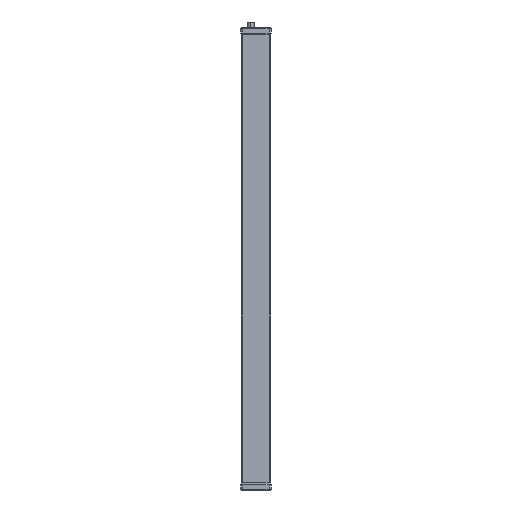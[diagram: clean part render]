
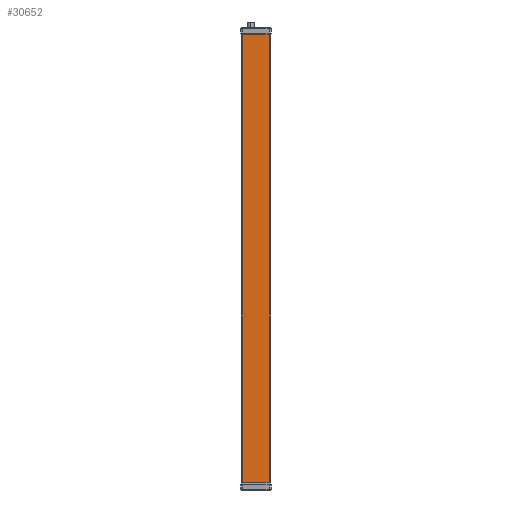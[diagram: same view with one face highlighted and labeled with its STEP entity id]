
A CAD part, left-side view. The second image highlights one B-rep face of the part: STEP entity #30652.
In plain terms, the highlighted planar face has unit normal (-1, 0, 0).
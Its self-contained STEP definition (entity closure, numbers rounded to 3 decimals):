
#17262 = DIRECTION ( 'NONE',  ( 0., 0., -1. ) ) ;
#17263 = VECTOR ( 'NONE', #17262, 1000. ) ;
#17264 = CARTESIAN_POINT ( 'NONE',  ( -21.191, 23.438, 579. ) ) ;
#17265 = LINE ( 'NONE', #17264, #17263 ) ;
#17271 = CARTESIAN_POINT ( 'NONE',  ( -21.191, 23.438, 579. ) ) ;
#17272 = DIRECTION ( 'NONE',  ( 0., 0., 1. ) ) ;
#17273 = VECTOR ( 'NONE', #17272, 1000. ) ;
#17274 = CARTESIAN_POINT ( 'NONE',  ( -21.191, -17.562, 579. ) ) ;
#17275 = LINE ( 'NONE', #17274, #17273 ) ;
#17276 = DIRECTION ( 'NONE',  ( 0., 1., 0. ) ) ;
#17277 = VECTOR ( 'NONE', #17276, 1000. ) ;
#17278 = CARTESIAN_POINT ( 'NONE',  ( -21.191, -50.274, 579. ) ) ;
#17279 = LINE ( 'NONE', #17278, #17277 ) ;
#17300 = CARTESIAN_POINT ( 'NONE',  ( -21.191, -17.562, 579. ) ) ;
#17315 = FACE_OUTER_BOUND ( 'NONE', #30620, .T. ) ;
#17321 = CARTESIAN_POINT ( 'NONE',  ( -21.191, 23.438, -120. ) ) ;
#17326 = CARTESIAN_POINT ( 'NONE',  ( -21.191, -17.562, -120. ) ) ;
#17327 = DIRECTION ( 'NONE',  ( 0., 1., 0. ) ) ;
#17328 = VECTOR ( 'NONE', #17327, 1000. ) ;
#17329 = CARTESIAN_POINT ( 'NONE',  ( -21.191, -50.274, -120. ) ) ;
#17330 = LINE ( 'NONE', #17329, #17328 ) ;
#17348 = DIRECTION ( 'NONE',  ( 0., -1., 0. ) ) ;
#17349 = DIRECTION ( 'NONE',  ( -1., 0., 0. ) ) ;
#17350 = CARTESIAN_POINT ( 'NONE',  ( -21.191, -50.274, 579. ) ) ;
#17351 = AXIS2_PLACEMENT_3D ( 'NONE', #17350, #17349, #17348 ) ;
#17352 = PLANE ( 'NONE',  #17351 ) ;
#30620 = EDGE_LOOP ( 'NONE', ( #30653, #30638, #30623, #30633 ) ) ;
#30623 = ORIENTED_EDGE ( 'NONE', *, *, #30624, .T. ) ;
#30624 = EDGE_CURVE ( 'NONE', #30639, #30626, #17279, .T. ) ;
#30625 = EDGE_CURVE ( 'NONE', #30647, #30639, #17275, .T. ) ;
#30626 = VERTEX_POINT ( 'NONE', #17271 ) ;
#30629 = EDGE_CURVE ( 'NONE', #30626, #30650, #17265, .T. ) ;
#30633 = ORIENTED_EDGE ( 'NONE', *, *, #30629, .T. ) ;
#30638 = ORIENTED_EDGE ( 'NONE', *, *, #30625, .T. ) ;
#30639 = VERTEX_POINT ( 'NONE', #17300 ) ;
#30646 = EDGE_CURVE ( 'NONE', #30647, #30650, #17330, .T. ) ;
#30647 = VERTEX_POINT ( 'NONE', #17326 ) ;
#30650 = VERTEX_POINT ( 'NONE', #17321 ) ;
#30652 = ADVANCED_FACE ( 'NONE', ( #17315 ), #17352, .T. ) ;
#30653 = ORIENTED_EDGE ( 'NONE', *, *, #30646, .F. ) ;
